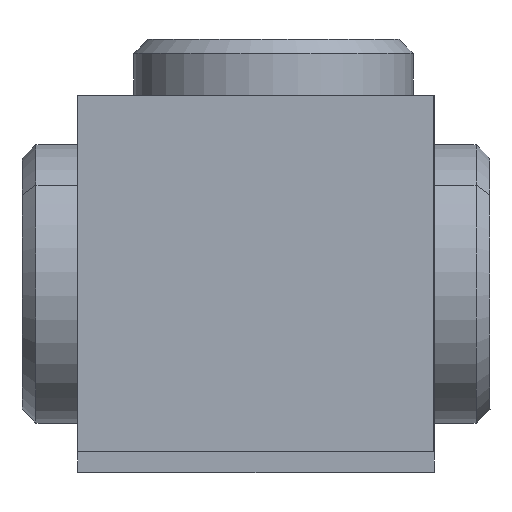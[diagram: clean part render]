
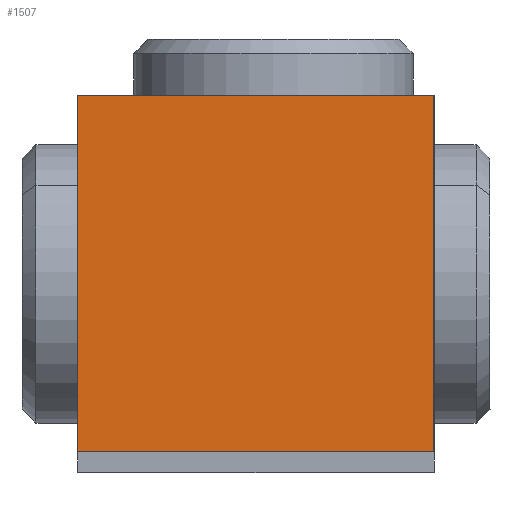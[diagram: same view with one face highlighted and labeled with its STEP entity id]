
A CAD part, front view. The second image highlights one B-rep face of the part: STEP entity #1507.
In plain terms, the highlighted planar face has unit normal (0, -1, 0).
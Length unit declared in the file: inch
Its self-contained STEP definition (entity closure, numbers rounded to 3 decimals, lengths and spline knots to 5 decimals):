
#54 = AXIS2_PLACEMENT_3D ( 'NONE', #3901, #2616, #665 ) ;
#394 = EDGE_CURVE ( 'NONE', #2209, #4167, #1146, .T. ) ;
#489 = CARTESIAN_POINT ( 'NONE',  ( -2.14279, -5.91596, -3.0595 ) ) ;
#665 = DIRECTION ( 'NONE',  ( 1., 0., 0. ) ) ;
#714 = VERTEX_POINT ( 'NONE', #2449 ) ;
#789 = ORIENTED_EDGE ( 'NONE', *, *, #2874, .T. ) ;
#808 = CARTESIAN_POINT ( 'NONE',  ( 1.04321, -5.91596, 0.128 ) ) ;
#933 = CARTESIAN_POINT ( 'NONE',  ( 1.04321, -5.91596, 0.128 ) ) ;
#939 = CARTESIAN_POINT ( 'NONE',  ( -2.14279, -5.91596, -3.0595 ) ) ;
#962 = VECTOR ( 'NONE', #2931, 39.37008 ) ;
#1129 = EDGE_LOOP ( 'NONE', ( #789, #4173, #3551, #4002 ) ) ;
#1146 = LINE ( 'NONE', #808, #1918 ) ;
#1187 = CARTESIAN_POINT ( 'NONE',  ( 1.04321, -5.91596, -3.0595 ) ) ;
#1299 = FACE_OUTER_BOUND ( 'NONE', #1129, .T. ) ;
#1507 = ADVANCED_FACE ( 'NONE', ( #1299 ), #1964, .T. ) ;
#1632 = CARTESIAN_POINT ( 'NONE',  ( -2.14279, -5.91596, 0.128 ) ) ;
#1918 = VECTOR ( 'NONE', #3084, 39.37008 ) ;
#1938 = LINE ( 'NONE', #1632, #962 ) ;
#1964 = PLANE ( 'NONE',  #54 ) ;
#2083 = EDGE_CURVE ( 'NONE', #2481, #2209, #3301, .T. ) ;
#2209 = VERTEX_POINT ( 'NONE', #1187 ) ;
#2428 = VECTOR ( 'NONE', #3728, 39.37008 ) ;
#2449 = CARTESIAN_POINT ( 'NONE',  ( -2.14279, -5.91596, 0.128 ) ) ;
#2481 = VERTEX_POINT ( 'NONE', #939 ) ;
#2616 = DIRECTION ( 'NONE',  ( 0., -1., 0. ) ) ;
#2798 = EDGE_CURVE ( 'NONE', #4167, #714, #2896, .T. ) ;
#2874 = EDGE_CURVE ( 'NONE', #714, #2481, #1938, .T. ) ;
#2896 = LINE ( 'NONE', #3860, #3749 ) ;
#2931 = DIRECTION ( 'NONE',  ( 0., 0., -1. ) ) ;
#3084 = DIRECTION ( 'NONE',  ( 0., 0., 1. ) ) ;
#3301 = LINE ( 'NONE', #489, #2428 ) ;
#3551 = ORIENTED_EDGE ( 'NONE', *, *, #394, .T. ) ;
#3728 = DIRECTION ( 'NONE',  ( 1., 0., 0. ) ) ;
#3749 = VECTOR ( 'NONE', #3839, 39.37008 ) ;
#3839 = DIRECTION ( 'NONE',  ( -1., 0., 0. ) ) ;
#3860 = CARTESIAN_POINT ( 'NONE',  ( -2.14279, -5.91596, 0.128 ) ) ;
#3901 = CARTESIAN_POINT ( 'NONE',  ( -2.14279, -5.91596, 0.128 ) ) ;
#4002 = ORIENTED_EDGE ( 'NONE', *, *, #2798, .T. ) ;
#4167 = VERTEX_POINT ( 'NONE', #933 ) ;
#4173 = ORIENTED_EDGE ( 'NONE', *, *, #2083, .T. ) ;
